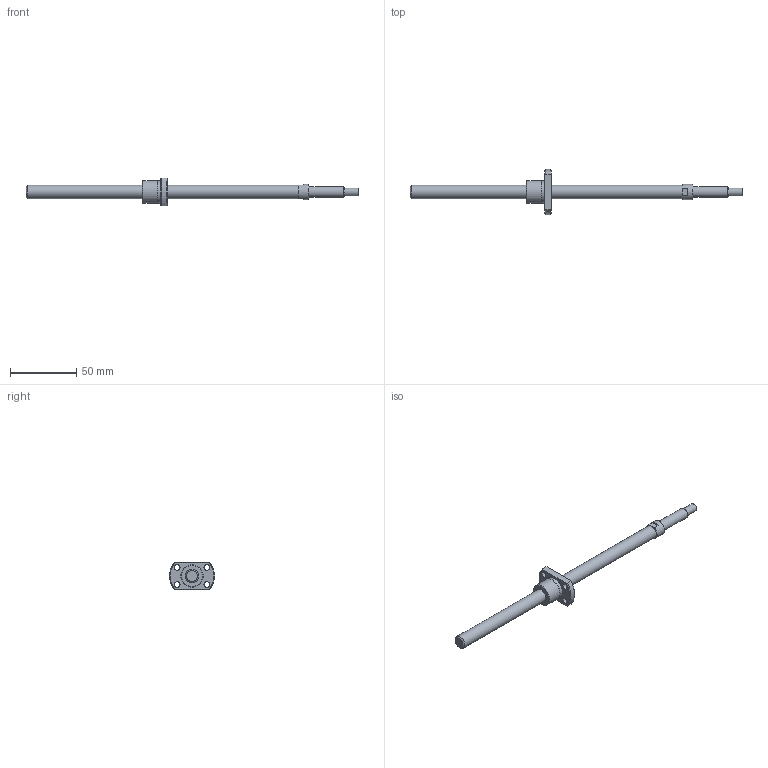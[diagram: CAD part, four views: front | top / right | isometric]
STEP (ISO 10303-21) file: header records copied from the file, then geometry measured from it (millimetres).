
FILE_DESCRIPTION(/* description */ ('STEP AP214'),/* implementation_level */ '2;1');
FILE_NAME(/* name */ 'SRT1002K-201R250C7A0X(A87.5Processing0X)',/* time_stamp */ '2026-08-06T15:08:43+02:00',/* author */ ('License CC BY-ND 4.0'),/* organization */ ('CADENAS'),/* preprocessor_version */ 'ST-DEVELOPER v20',/* originating_system */ 'PARTsolutions',/* authorisation */ ' ');
FILE_SCHEMA (('AUTOMOTIVE_DESIGN {1 0 10303 214 3 1 1}'));
Length unit declared in the file: millimetre
Products named in the file (3): SRT1002K-201R250C7A0X(A87.5Processing0X); 10AProcessing250; SR1002K_nut
Assembly tree (2 placements, depth 2):
  SRT1002K-201R250C7A0X(A87.5Processing0X)
    10AProcessing250
    SR1002K_nut
Bounding box: 250 x 34 x 21 mm (x, y, z)
Volume: 23173.6 mm3; surface area: 10906.8 mm2
Topology: 2 solids, 2 shells, 36 faces, 78 edges, 50 vertices
Faces by surface type: plane 16, cylinder 13, cone 7
Full cylindrical faces by diameter (mm): 4.5 x4, 6 x1, 8 x1, 10 x2, 11.5 x1, 16.6 x1, 17 x1
Entity records: 1015 total; most frequent: CARTESIAN_POINT 175, DIRECTION 170, ORIENTED_EDGE 126, AXIS2_PLACEMENT_3D 76, EDGE_LOOP 64, FACE_BOUND 64, EDGE_CURVE 63, VERTEX_POINT 49
